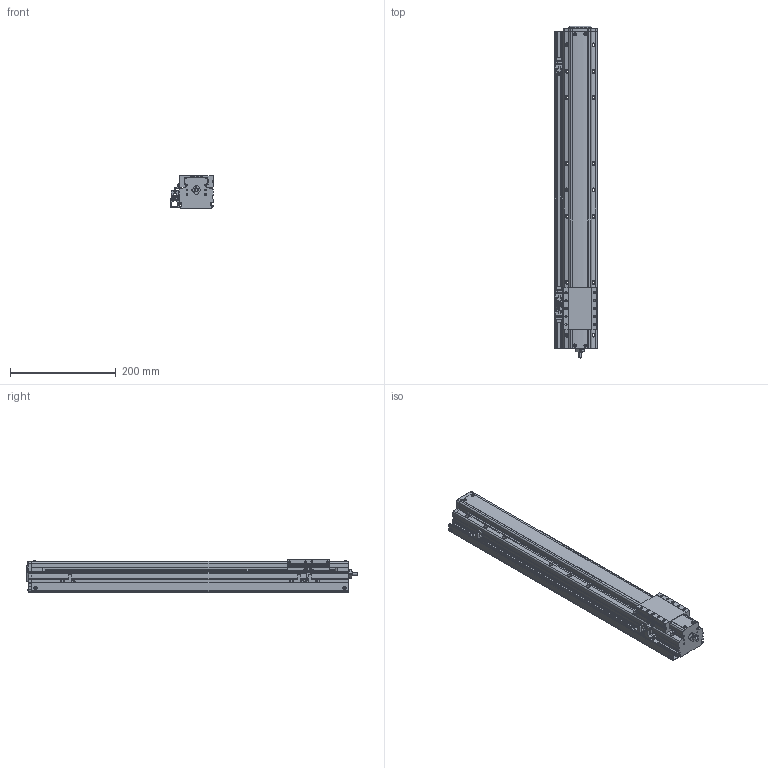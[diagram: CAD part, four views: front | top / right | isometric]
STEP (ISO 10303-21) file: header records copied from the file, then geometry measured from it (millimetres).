
FILE_DESCRIPTION(('STEP AP214'),'1');
FILE_NAME('Z:/Web/3D/PSA65/STP/PSA65-450 (3D)/PSA65ㅁㅁ-450+3SL.stp','2014-06-25T04:51:36',(' '),(' '),'Spatial InterOp 3D',' ',' ');
FILE_SCHEMA(('automotive_design'));
Length unit declared in the file: millimetre
Products named in the file (62): SLIDE; RRCV-PA060; 1; 2; 3; 4; 5; 6; 7; 8; 9; 10; 11; 12; 13; 14; 15; 16; 17; 18; 19; 20; 21; 22; 23; 24; 25; 26; 27; 28; 29; 30; 31; 스크루 : Round - M3.0 x 8.0; RN8 x 0.75; SHAFT-SAN65; BASE; 스크루 : Round - M3.0 x 6.0; EE-SX674; SBK-SX674-352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
Bounding box: 81 x 629.3 x 62 mm (x, y, z)
Volume: 1958409.8 mm3; surface area: 325616.7 mm2
Topology: 62 solids, 62 shells, 2149 faces, 5697 edges, 3664 vertices
Faces by surface type: plane 1342, cylinder 551, cone 183, sphere 42, torus 16, bspline 15
Entity records: 85143 total; most frequent: CARTESIAN_POINT 12957, DIRECTION 11380, ORIENTED_EDGE 11166, EDGE_CURVE 5583, LINE 4006, VECTOR 4006, AXIS2_PLACEMENT_3D 3687, VERTEX_POINT 3664
